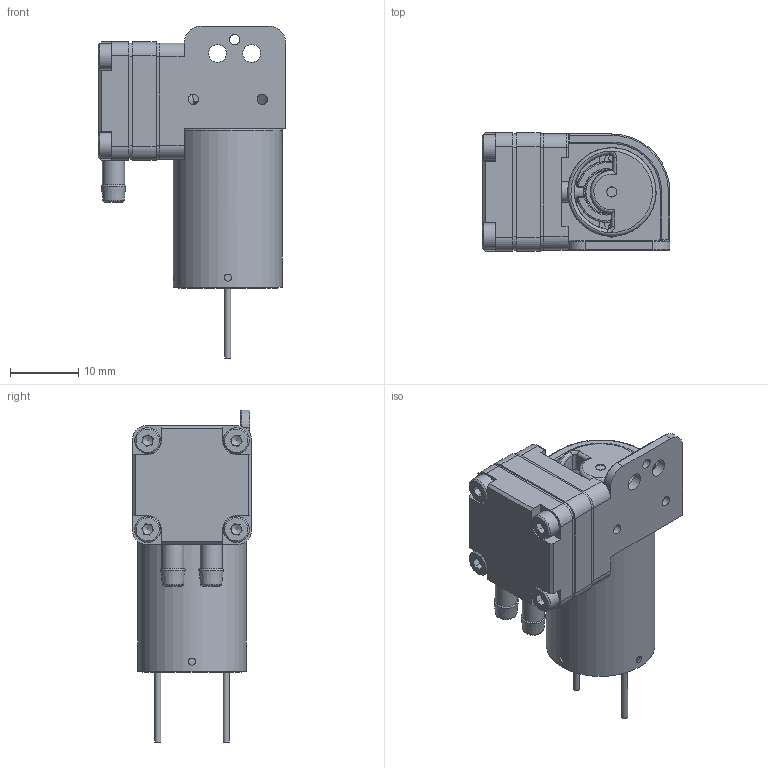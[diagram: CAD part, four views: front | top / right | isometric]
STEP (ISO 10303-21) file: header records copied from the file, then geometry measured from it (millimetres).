
FILE_DESCRIPTION (( 'STEP AP214' ), '1' );
FILE_NAME ('D250S REV 6.STEP', '2022-01-24T15:05:10', ( '' ), ( '' ), 'SwSTEP 2.0', 'SolidWorks 2021', '' );
FILE_SCHEMA (( 'AUTOMOTIVE_DESIGN' ));
Length unit declared in the file: millimetre
Products named in the file (1): D250S REV 6
Bounding box: 27.5 x 17.4 x 48.66 mm (x, y, z)
Surface area: 5602.3 mm2 (no closed solid volume)
Topology: 0 solids, 21 shells, 246 faces, 727 edges, 493 vertices
Faces by surface type: plane 129, cylinder 75, torus 20, cone 17, bspline 5
Full cylindrical faces by diameter (mm): 0.9 x2, 1.04 x4, 1.45 x1, 1.5 x3, 1.6 x4, 2 x2, 2.6 x2, 3 x1, 3.25 x2, 3.8 x4, 6.209 x1, 14.2 x1, 14.6 x1, 15.95 x1
Entity records: 10856 total; most frequent: CARTESIAN_POINT 1767, DIRECTION 1373, ORIENTED_EDGE 1118, EDGE_CURVE 653, AXIS2_PLACEMENT_3D 521, VERTEX_POINT 471, EDGE_LOOP 365, VECTOR 331
